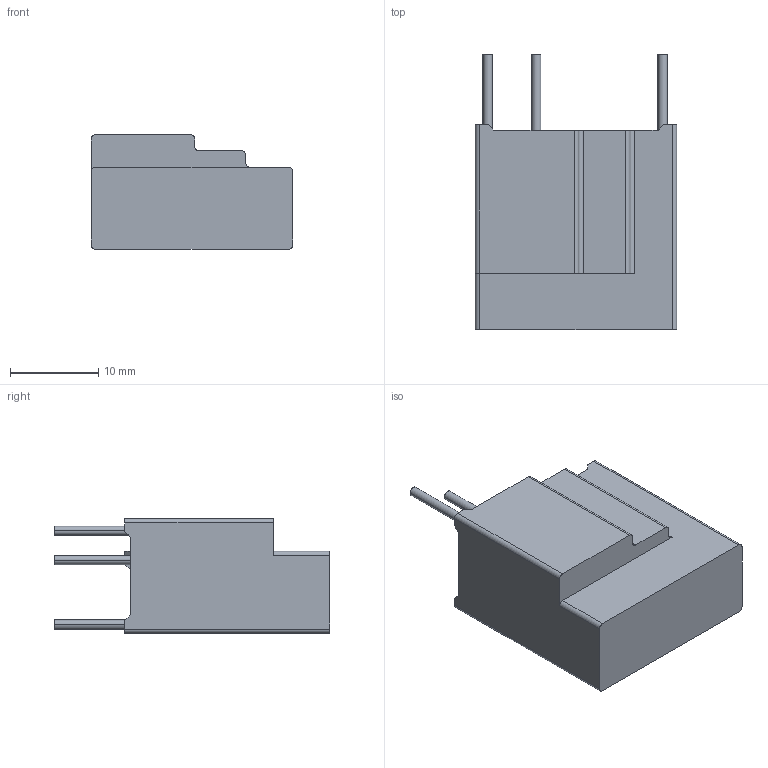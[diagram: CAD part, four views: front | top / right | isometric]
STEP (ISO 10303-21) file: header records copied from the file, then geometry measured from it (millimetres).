
FILE_DESCRIPTION((''),'2;1');
FILE_NAME('20S4601-20200616','2020-06-19T',('set'),(''),'PRO/ENGINEER BY PARAMETRIC TECHNOLOGY CORPORATION, 2012310','PRO/ENGINEER BY PARAMETRIC TECHNOLOGY CORPORATION, 2012310','');
FILE_SCHEMA(('CONFIG_CONTROL_DESIGN','SHAPE_APPEARANCE_LAYERS_GROUPS'));
Length unit declared in the file: millimetre
Products named in the file (1): 20S4601-20200616
Bounding box: 22.8 x 31.2 x 13 mm (x, y, z)
Volume: 1547 mm3; surface area: 4004.2 mm2
Topology: 1 solids, 2 shells, 104 faces, 291 edges, 194 vertices
Faces by surface type: plane 78, cylinder 26
Entity records: 3376 total; most frequent: CARTESIAN_POINT 589, ORIENTED_EDGE 582, DIRECTION 551, EDGE_CURVE 291, VECTOR 239, LINE 239, VERTEX_POINT 194, AXIS2_PLACEMENT_3D 156
